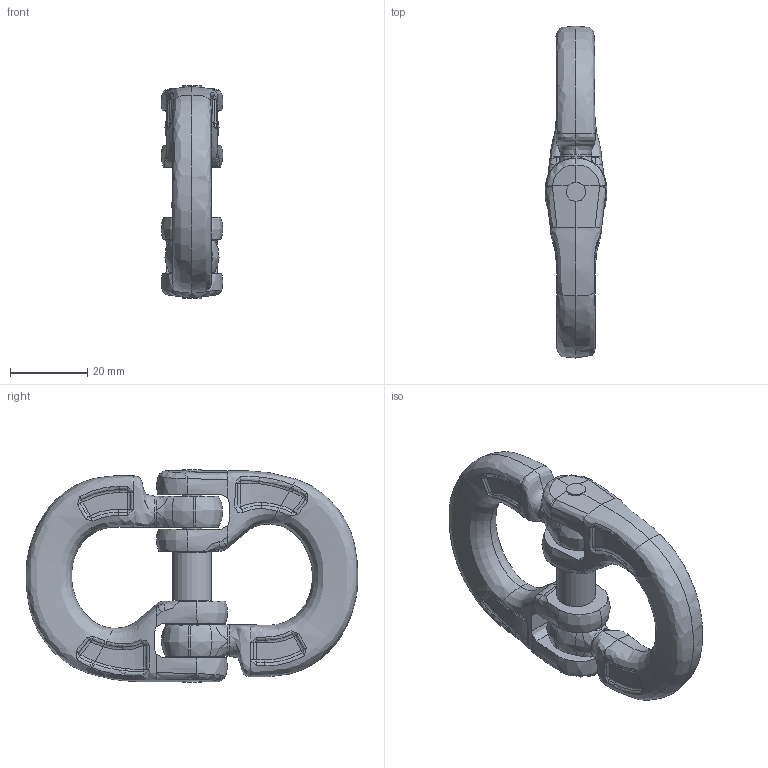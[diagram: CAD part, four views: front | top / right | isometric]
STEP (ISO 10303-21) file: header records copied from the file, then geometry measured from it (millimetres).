
FILE_DESCRIPTION(/* description */ (''),/* implementation_level */ '2;1');
FILE_NAME(/* name */ 'CW 8 Kundenmodell',/* time_stamp */ '2010-01-04T11:51:45+01:00',/* author */ (''),/* organization */ (''),/* preprocessor_version */ 'ST-DEVELOPER v9',/* originating_system */ 'UGS - NX 4.0',/* authorisation */ '');
FILE_SCHEMA (('AUTOMOTIVE_DESIGN { 1 0 10303 214 1 1 1 1 }'));
Length unit declared in the file: millimetre
Products named in the file (1): rit4701pw34
Bounding box: 16.01 x 85.92 x 55 mm (x, y, z)
Volume: 27745.5 mm3; surface area: 12909.6 mm2
Topology: 4 solids, 4 shells, 373 faces, 948 edges, 561 vertices
Faces by surface type: bspline 272, sphere 36, plane 30, cone 16, cylinder 15, torus 4
Full cylindrical faces by diameter (mm): 5 x8, 10 x1
Entity records: 28711 total; most frequent: CARTESIAN_POINT 22116, ORIENTED_EDGE 1804, EDGE_CURVE 902, DIRECTION 702, B_SPLINE_CURVE_WITH_KNOTS 622, VERTEX_POINT 548, EDGE_LOOP 398, ADVANCED_FACE 373
